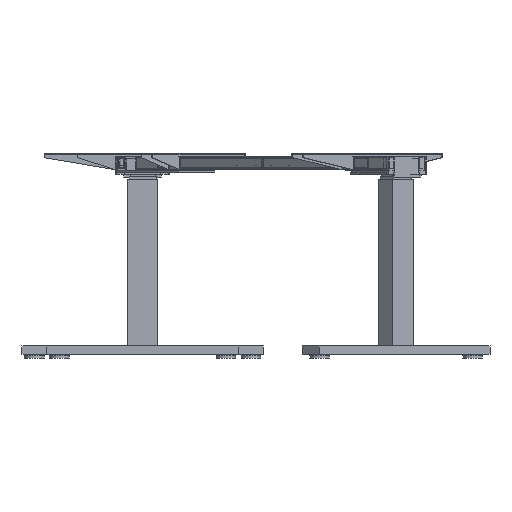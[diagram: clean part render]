
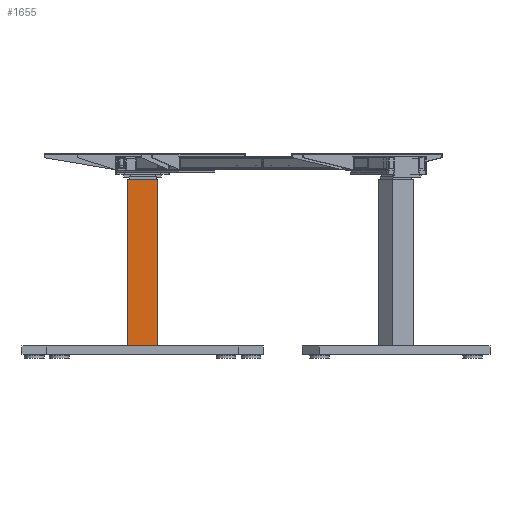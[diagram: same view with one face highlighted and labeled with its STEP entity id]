
A CAD part, left-side view. The second image highlights one B-rep face of the part: STEP entity #1655.
In plain terms, the highlighted planar face has unit normal (-1, 0, 0).
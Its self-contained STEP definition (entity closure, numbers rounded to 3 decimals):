
#1655 = ADVANCED_FACE( '', ( #3491 ), #3492, .F. );
#3491 = FACE_OUTER_BOUND( '', #5250, .T. );
#3492 = PLANE( '', #5251 );
#5250 = EDGE_LOOP( '', ( #8986, #8987, #8988, #8989 ) );
#5251 = AXIS2_PLACEMENT_3D( '', #8990, #8991, #8992 );
#8986 = ORIENTED_EDGE( '', *, *, #9830, .F. );
#8987 = ORIENTED_EDGE( '', *, *, #9664, .F. );
#8988 = ORIENTED_EDGE( '', *, *, #9584, .F. );
#8989 = ORIENTED_EDGE( '', *, *, #10351, .F. );
#8990 = CARTESIAN_POINT( '', ( -30., 0., 0. ) );
#8991 = DIRECTION( '', ( 1., 0., 0. ) );
#8992 = DIRECTION( '', ( 0., 0., -1. ) );
#9584 = EDGE_CURVE( '', #11394, #11395, #11396, .T. );
#9664 = EDGE_CURVE( '', #11395, #11518, #11519, .T. );
#9830 = EDGE_CURVE( '', #11518, #11776, #11777, .T. );
#10351 = EDGE_CURVE( '', #11776, #11394, #12488, .T. );
#11394 = VERTEX_POINT( '', #13816 );
#11395 = VERTEX_POINT( '', #13817 );
#11396 = LINE( '', #13818, #13819 );
#11518 = VERTEX_POINT( '', #13987 );
#11519 = LINE( '', #13988, #13989 );
#11776 = VERTEX_POINT( '', #14343 );
#11777 = LINE( '', #14344, #14345 );
#12488 = LINE( '', #15284, #15285 );
#13816 = CARTESIAN_POINT( '', ( -30., 45., 0. ) );
#13817 = CARTESIAN_POINT( '', ( -30., 45., 508. ) );
#13818 = CARTESIAN_POINT( '', ( -30., 45., 0. ) );
#13819 = VECTOR( '', #16126, 1000. );
#13987 = CARTESIAN_POINT( '', ( -30., -45., 508. ) );
#13988 = CARTESIAN_POINT( '', ( -30., 45., 508. ) );
#13989 = VECTOR( '', #16215, 1000. );
#14343 = CARTESIAN_POINT( '', ( -30., -45., 0. ) );
#14344 = CARTESIAN_POINT( '', ( -30., -45., 508. ) );
#14345 = VECTOR( '', #16382, 1000. );
#15284 = CARTESIAN_POINT( '', ( -30., -45., 0. ) );
#15285 = VECTOR( '', #16905, 1000. );
#16126 = DIRECTION( '', ( 0., 0., 1. ) );
#16215 = DIRECTION( '', ( 0., -1., 0. ) );
#16382 = DIRECTION( '', ( 0., 0., -1. ) );
#16905 = DIRECTION( '', ( 0., 1., 0. ) );
